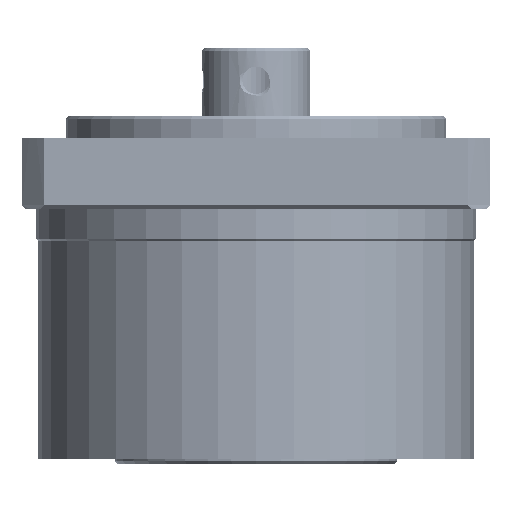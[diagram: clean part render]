
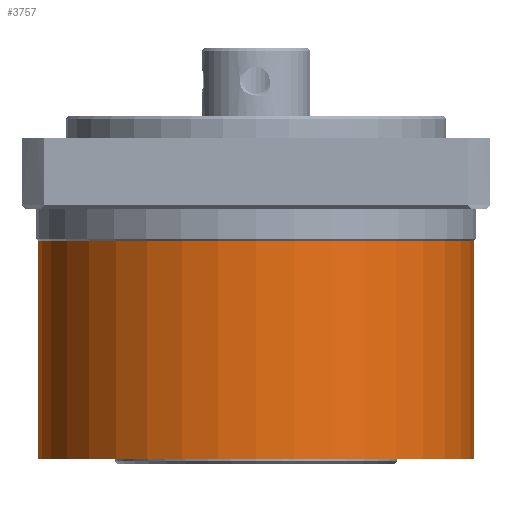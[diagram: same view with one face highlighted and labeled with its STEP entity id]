
A CAD part, front view. The second image highlights one B-rep face of the part: STEP entity #3757.
In plain terms, the highlighted cylindrical face has radius 20 mm (diameter 40 mm), a full revolution.
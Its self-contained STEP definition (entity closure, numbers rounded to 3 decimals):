
#3757=ADVANCED_FACE('',(#4331,#4332),#3927,.T.);
#3927=CYLINDRICAL_SURFACE('',#9470,20.);
#4331=FACE_BOUND('',#4954,.T.);
#4332=FACE_BOUND('',#4955,.T.);
#4954=EDGE_LOOP('',(#6645));
#4955=EDGE_LOOP('',(#6646));
#6645=ORIENTED_EDGE('',*,*,#8523,.F.);
#6646=ORIENTED_EDGE('',*,*,#8527,.F.);
#7615=VERTEX_POINT('',#84156);
#7617=VERTEX_POINT('',#85159);
#8523=EDGE_CURVE('',#7615,#7615,#8891,.T.);
#8527=EDGE_CURVE('',#7617,#7617,#8892,.T.);
#8891=CIRCLE('',#9464,20.);
#8892=CIRCLE('',#9469,20.);
#9464=AXIS2_PLACEMENT_3D('',#84155,#10910,#10911);
#9469=AXIS2_PLACEMENT_3D('',#85158,#10921,#10922);
#9470=AXIS2_PLACEMENT_3D('',#85160,#10923,#10924);
#10910=DIRECTION('',(0.,0.,-1.));
#10911=DIRECTION('',(1.,0.,0.));
#10921=DIRECTION('',(0.,0.,1.));
#10922=DIRECTION('',(1.,0.,0.));
#10923=DIRECTION('',(0.,0.,-1.));
#10924=DIRECTION('',(-1.,0.,0.));
#84155=CARTESIAN_POINT('',(0.,0.,-29.5));
#84156=CARTESIAN_POINT('',(20.,0.,-29.5));
#85158=CARTESIAN_POINT('',(0.,0.,-9.5));
#85159=CARTESIAN_POINT('',(20.,0.,-9.5));
#85160=CARTESIAN_POINT('',(0.,0.,-9.5));
